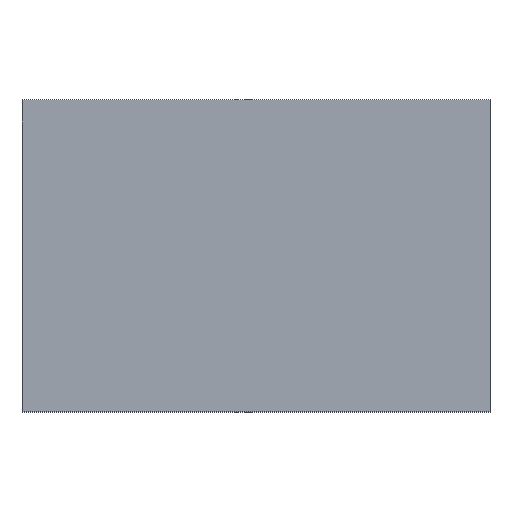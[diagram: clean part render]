
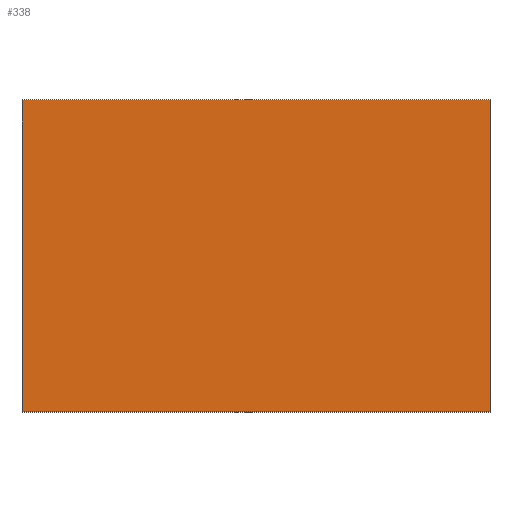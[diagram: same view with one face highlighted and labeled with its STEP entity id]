
A CAD part, top view. The second image highlights one B-rep face of the part: STEP entity #338.
In plain terms, the highlighted planar face has unit normal (0, 0, 1).
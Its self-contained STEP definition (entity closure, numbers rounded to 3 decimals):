
#24 = VERTEX_POINT('',#25);
#25 = CARTESIAN_POINT('',(21.,67.,28.));
#32 = PLANE('',#33);
#33 = AXIS2_PLACEMENT_3D('',#34,#35,#36);
#34 = CARTESIAN_POINT('',(21.,67.,25.));
#35 = DIRECTION('',(1.,0.,-0.));
#36 = DIRECTION('',(0.,0.,1.));
#44 = PLANE('',#45);
#45 = AXIS2_PLACEMENT_3D('',#46,#47,#48);
#46 = CARTESIAN_POINT('',(21.,67.,25.));
#47 = DIRECTION('',(-0.,1.,0.));
#48 = DIRECTION('',(0.,0.,1.));
#85 = VERTEX_POINT('',#86);
#86 = CARTESIAN_POINT('',(21.,79.,28.));
#100 = PLANE('',#101);
#101 = AXIS2_PLACEMENT_3D('',#102,#103,#104);
#102 = CARTESIAN_POINT('',(21.,79.,25.));
#103 = DIRECTION('',(-0.,1.,0.));
#104 = DIRECTION('',(0.,0.,1.));
#112 = EDGE_CURVE('',#24,#85,#113,.T.);
#113 = SURFACE_CURVE('',#114,(#118,#125),.PCURVE_S1.);
#114 = LINE('',#115,#116);
#115 = CARTESIAN_POINT('',(21.,67.,28.));
#116 = VECTOR('',#117,1.);
#117 = DIRECTION('',(-0.,1.,0.));
#118 = PCURVE('',#32,#119);
#119 = DEFINITIONAL_REPRESENTATION('',(#120),#124);
#120 = LINE('',#121,#122);
#121 = CARTESIAN_POINT('',(3.,0.));
#122 = VECTOR('',#123,1.);
#123 = DIRECTION('',(0.,-1.));
#124 = ( GEOMETRIC_REPRESENTATION_CONTEXT(2) 
PARAMETRIC_REPRESENTATION_CONTEXT() REPRESENTATION_CONTEXT('2D SPACE',''
  ) );
#125 = PCURVE('',#126,#131);
#126 = PLANE('',#127);
#127 = AXIS2_PLACEMENT_3D('',#128,#129,#130);
#128 = CARTESIAN_POINT('',(21.,67.,28.));
#129 = DIRECTION('',(0.,0.,1.));
#130 = DIRECTION('',(1.,0.,-0.));
#131 = DEFINITIONAL_REPRESENTATION('',(#132),#136);
#132 = LINE('',#133,#134);
#133 = CARTESIAN_POINT('',(0.,0.));
#134 = VECTOR('',#135,1.);
#135 = DIRECTION('',(0.,1.));
#136 = ( GEOMETRIC_REPRESENTATION_CONTEXT(2) 
PARAMETRIC_REPRESENTATION_CONTEXT() REPRESENTATION_CONTEXT('2D SPACE',''
  ) );
#144 = VERTEX_POINT('',#145);
#145 = CARTESIAN_POINT('',(39.,67.,28.));
#152 = PLANE('',#153);
#153 = AXIS2_PLACEMENT_3D('',#154,#155,#156);
#154 = CARTESIAN_POINT('',(39.,67.,25.));
#155 = DIRECTION('',(1.,0.,-0.));
#156 = DIRECTION('',(0.,0.,1.));
#195 = VERTEX_POINT('',#196);
#196 = CARTESIAN_POINT('',(39.,79.,28.));
#217 = EDGE_CURVE('',#144,#195,#218,.T.);
#218 = SURFACE_CURVE('',#219,(#223,#230),.PCURVE_S1.);
#219 = LINE('',#220,#221);
#220 = CARTESIAN_POINT('',(39.,67.,28.));
#221 = VECTOR('',#222,1.);
#222 = DIRECTION('',(-0.,1.,0.));
#223 = PCURVE('',#152,#224);
#224 = DEFINITIONAL_REPRESENTATION('',(#225),#229);
#225 = LINE('',#226,#227);
#226 = CARTESIAN_POINT('',(3.,0.));
#227 = VECTOR('',#228,1.);
#228 = DIRECTION('',(0.,-1.));
#229 = ( GEOMETRIC_REPRESENTATION_CONTEXT(2) 
PARAMETRIC_REPRESENTATION_CONTEXT() REPRESENTATION_CONTEXT('2D SPACE',''
  ) );
#230 = PCURVE('',#126,#231);
#231 = DEFINITIONAL_REPRESENTATION('',(#232),#236);
#232 = LINE('',#233,#234);
#233 = CARTESIAN_POINT('',(18.,0.));
#234 = VECTOR('',#235,1.);
#235 = DIRECTION('',(0.,1.));
#236 = ( GEOMETRIC_REPRESENTATION_CONTEXT(2) 
PARAMETRIC_REPRESENTATION_CONTEXT() REPRESENTATION_CONTEXT('2D SPACE',''
  ) );
#263 = EDGE_CURVE('',#24,#144,#264,.T.);
#264 = SURFACE_CURVE('',#265,(#269,#276),.PCURVE_S1.);
#265 = LINE('',#266,#267);
#266 = CARTESIAN_POINT('',(21.,67.,28.));
#267 = VECTOR('',#268,1.);
#268 = DIRECTION('',(1.,0.,-0.));
#269 = PCURVE('',#44,#270);
#270 = DEFINITIONAL_REPRESENTATION('',(#271),#275);
#271 = LINE('',#272,#273);
#272 = CARTESIAN_POINT('',(3.,0.));
#273 = VECTOR('',#274,1.);
#274 = DIRECTION('',(0.,1.));
#275 = ( GEOMETRIC_REPRESENTATION_CONTEXT(2) 
PARAMETRIC_REPRESENTATION_CONTEXT() REPRESENTATION_CONTEXT('2D SPACE',''
  ) );
#276 = PCURVE('',#126,#277);
#277 = DEFINITIONAL_REPRESENTATION('',(#278),#282);
#278 = LINE('',#279,#280);
#279 = CARTESIAN_POINT('',(0.,0.));
#280 = VECTOR('',#281,1.);
#281 = DIRECTION('',(1.,0.));
#282 = ( GEOMETRIC_REPRESENTATION_CONTEXT(2) 
PARAMETRIC_REPRESENTATION_CONTEXT() REPRESENTATION_CONTEXT('2D SPACE',''
  ) );
#310 = EDGE_CURVE('',#85,#195,#311,.T.);
#311 = SURFACE_CURVE('',#312,(#316,#323),.PCURVE_S1.);
#312 = LINE('',#313,#314);
#313 = CARTESIAN_POINT('',(21.,79.,28.));
#314 = VECTOR('',#315,1.);
#315 = DIRECTION('',(1.,0.,-0.));
#316 = PCURVE('',#100,#317);
#317 = DEFINITIONAL_REPRESENTATION('',(#318),#322);
#318 = LINE('',#319,#320);
#319 = CARTESIAN_POINT('',(3.,0.));
#320 = VECTOR('',#321,1.);
#321 = DIRECTION('',(0.,1.));
#322 = ( GEOMETRIC_REPRESENTATION_CONTEXT(2) 
PARAMETRIC_REPRESENTATION_CONTEXT() REPRESENTATION_CONTEXT('2D SPACE',''
  ) );
#323 = PCURVE('',#126,#324);
#324 = DEFINITIONAL_REPRESENTATION('',(#325),#329);
#325 = LINE('',#326,#327);
#326 = CARTESIAN_POINT('',(0.,12.));
#327 = VECTOR('',#328,1.);
#328 = DIRECTION('',(1.,0.));
#329 = ( GEOMETRIC_REPRESENTATION_CONTEXT(2) 
PARAMETRIC_REPRESENTATION_CONTEXT() REPRESENTATION_CONTEXT('2D SPACE',''
  ) );
#338 = ADVANCED_FACE('',(#339),#126,.T.);
#339 = FACE_BOUND('',#340,.T.);
#340 = EDGE_LOOP('',(#341,#342,#343,#344));
#341 = ORIENTED_EDGE('',*,*,#112,.F.);
#342 = ORIENTED_EDGE('',*,*,#263,.T.);
#343 = ORIENTED_EDGE('',*,*,#217,.T.);
#344 = ORIENTED_EDGE('',*,*,#310,.F.);
